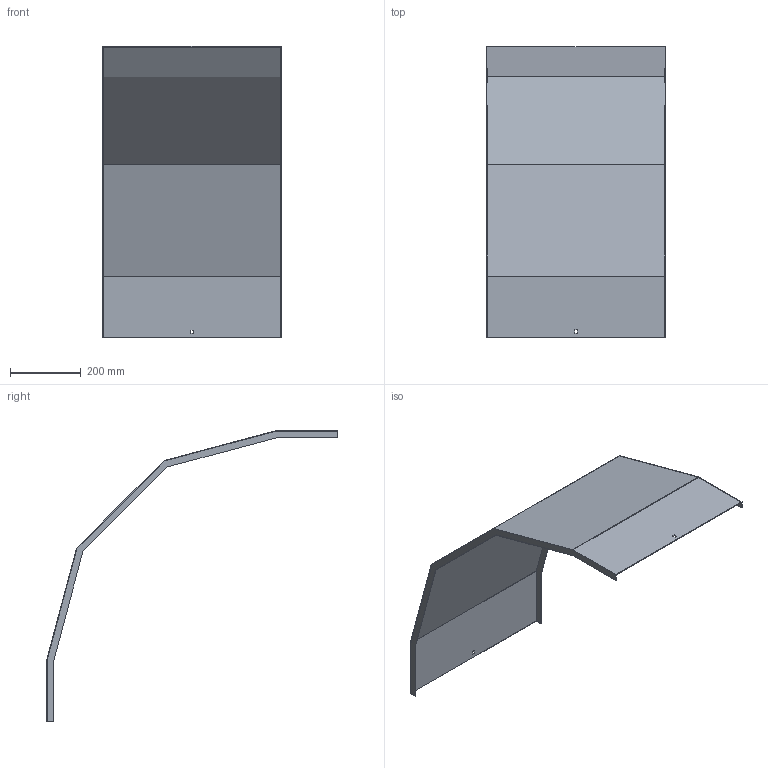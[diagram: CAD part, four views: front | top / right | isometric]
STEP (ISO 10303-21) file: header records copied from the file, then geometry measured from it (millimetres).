
FILE_DESCRIPTION (( 'STEP AP214' ), '1' );
FILE_NAME ('33N5F500.step', '2025-02-21T14:25:47', ( '' ), ( '' ), 'SwSTEP 2.0', 'SolidWorks 2023', '' );
FILE_SCHEMA (( 'AUTOMOTIVE_DESIGN' ));
Length unit declared in the file: millimetre
Products named in the file (1): 33N5F500
Bounding box: 503 x 820.4 x 820.4 mm (x, y, z)
Volume: 1090630.5 mm3; surface area: 1459841.7 mm2
Topology: 1 solids, 1 shells, 34 faces, 96 edges, 64 vertices
Faces by surface type: plane 34
Entity records: 1111 total; most frequent: CARTESIAN_POINT 195, ORIENTED_EDGE 192, DIRECTION 166, VECTOR 96, LINE 96, EDGE_CURVE 96, VERTEX_POINT 64, EDGE_LOOP 38
